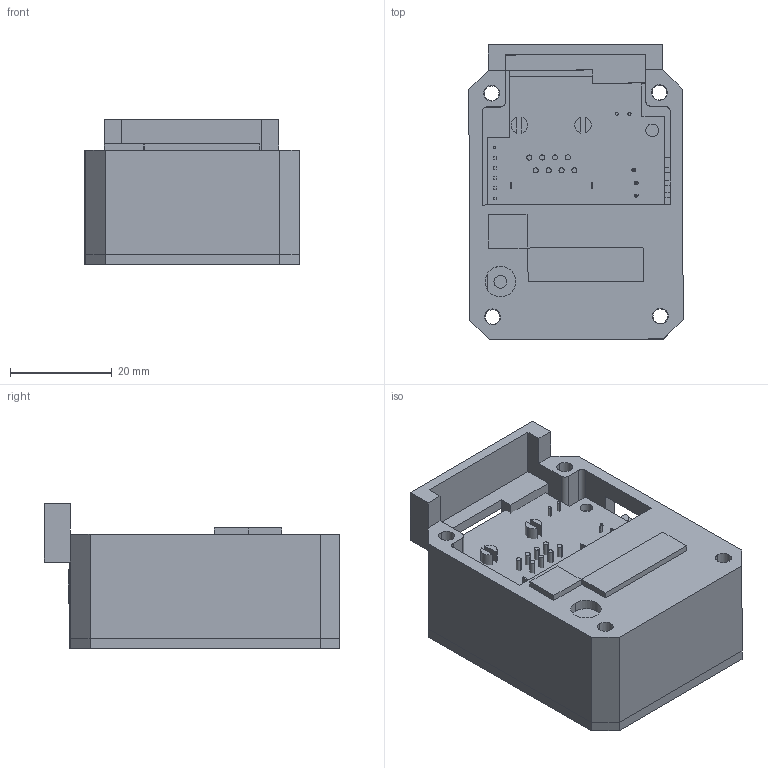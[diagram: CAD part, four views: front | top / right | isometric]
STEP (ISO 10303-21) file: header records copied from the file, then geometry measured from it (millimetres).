
FILE_DESCRIPTION (( 'STEP AP203' ), '1' );
FILE_NAME ('CM1IPX.STEP', '2010-06-25T17:37:44', ( 'render' ), ( '' ), 'SwSTEP 2.0', 'SolidWorks 2009', '' );
FILE_SCHEMA (( 'CONFIG_CONTROL_DESIGN' ));
Length unit declared in the file: millimetre
Products named in the file (1): CM1IPX
Bounding box: 42.18 x 58.14 x 28.5 mm (x, y, z)
Volume: 25223.9 mm3; surface area: 25420.7 mm2
Topology: 8 solids, 8 shells, 1152 faces, 3078 edges, 1998 vertices
Faces by surface type: plane 950, cylinder 122, bspline 64, cone 16
Entity records: 38269 total; most frequent: CARTESIAN_POINT 9661, ORIENTED_EDGE 6156, DIRECTION 5428, EDGE_CURVE 3078, LINE 2618, VECTOR 2618, VERTEX_POINT 1998, AXIS2_PLACEMENT_3D 1405
